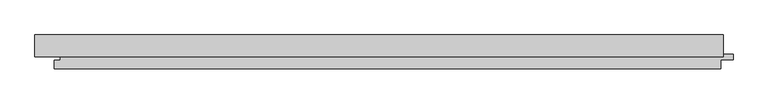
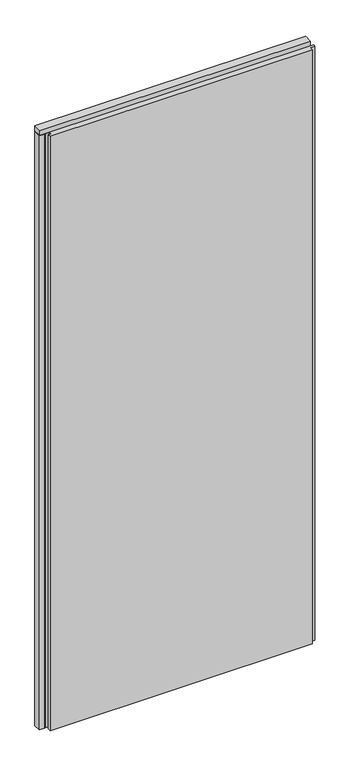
"""IFC4 building model written with IfcOpenShell, lengths in millimetres: plate geometry, Trimo_Qbiss Screen_Normal Panel-VERTICAL : HR - FB-F."""

from ifc_helpers import new_model, si_unit, frame, origin, place, context, project, spatial, polyline, outline, extrude, source, transform, mapped, element, save


def plate_12ec6323(model_context):
    return source(origin(), model_context, "Body", "SweptSolid", [
        extrude(outline(polyline([(-523.0, 97.0), (-523.0, 126.0), (-504.0, 126.0), (-504.0, 97.0), (-523.0, 97.0)])), frame((0.0, 0.0, 12.5), z_axis=(0.0, 0.0, 1.0), x_axis=(1.0, 0.0, 0.0)), (0.0, 0.0, 1.0), 2375.0),
        extrude(outline(polyline([(-523.0, 93.9), (-523.0, 126.0), (500.0, 126.0), (500.0, 93.9), (-523.0, 93.9)])), frame((0.0, 0.0, 2390.5), z_axis=(0.0, 0.0, 1.0), x_axis=(1.0, 0.0, 0.0)), (0.0, 0.0, 1.0), 19.0),
        extrude(outline(polyline([(496.0, 97.0), (514.5, 97.0), (514.5, 89.0), (496.0, 89.0), (496.0, 76.0), (-494.0, 76.0), (-494.0, 88.0), (-485.5, 88.0), (-485.5, 98.0), (-501.0, 98.0), (-501.0, 126.0), (496.0, 126.0), (496.0, 97.0)])), frame((0.0, 0.0, 12.5), z_axis=(0.0, 0.0, 1.0), x_axis=(1.0, 0.0, 0.0)), (0.0, 0.0, 1.0), 2375.0),
    ])


if __name__ == "__main__":
    model = new_model("IFC4")
    model_context = context("Model", 3, world=origin())
    ifc_project = project(units=[si_unit("LENGTHUNIT", "METRE", prefix="MILLI")], contexts=[model_context])
    site = spatial("IfcSite", under=ifc_project)
    building = spatial("IfcBuilding", under=site)
    placement = place(None, origin())
    plate_shape = plate_12ec6323(model_context)
    element("IfcPlate", 1, ObjectType="Trimo_Qbiss Screen_Normal Panel-VERTICAL : HR - FB-F", at=placement, inside=building, context=model_context, shape_type="MappedRepresentation", body=[
        mapped(plate_shape, transform((0.0, 0.0, 0.0), x_axis=(1.0, 0.0, 0.0), y_axis=(0.0, 1.0, 0.0), z_axis=(0.0, 0.0, 1.0))),
    ])
    save(model, "model.ifc")
